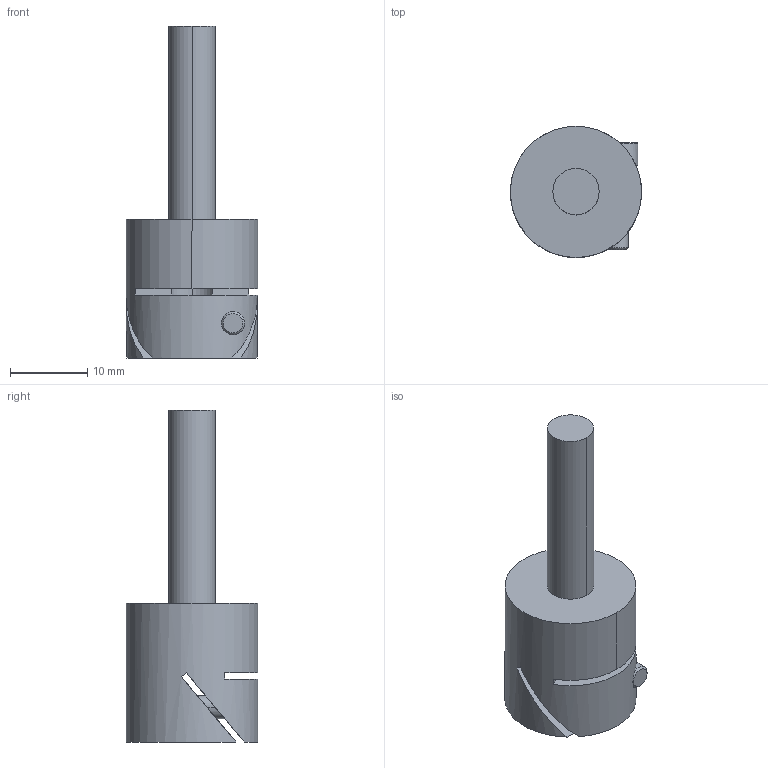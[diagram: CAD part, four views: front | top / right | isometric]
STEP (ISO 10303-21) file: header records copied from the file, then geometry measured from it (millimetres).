
FILE_DESCRIPTION((''),'2;1');
FILE_NAME('50353','2010-11-08T',('carefree'),(''),'PRO/ENGINEER BY PARAMETRIC TECHNOLOGY CORPORATION, 2005030','PRO/ENGINEER BY PARAMETRIC TECHNOLOGY CORPORATION, 2005030','');
FILE_SCHEMA(('CONFIG_CONTROL_DESIGN'));
Length unit declared in the file: millimetre
Products named in the file (1): 50353
Bounding box: 17 x 17 x 43 mm (x, y, z)
Volume: 4281.5 mm3; surface area: 2664.5 mm2
Topology: 1 solids, 2 shells, 50 faces, 122 edges, 77 vertices
Faces by surface type: plane 25, cylinder 17, cone 8
Entity records: 1837 total; most frequent: CARTESIAN_POINT 610, DIRECTION 250, ORIENTED_EDGE 240, EDGE_CURVE 120, AXIS2_PLACEMENT_3D 96, VERTEX_POINT 77, EDGE_LOOP 59, VECTOR 58
